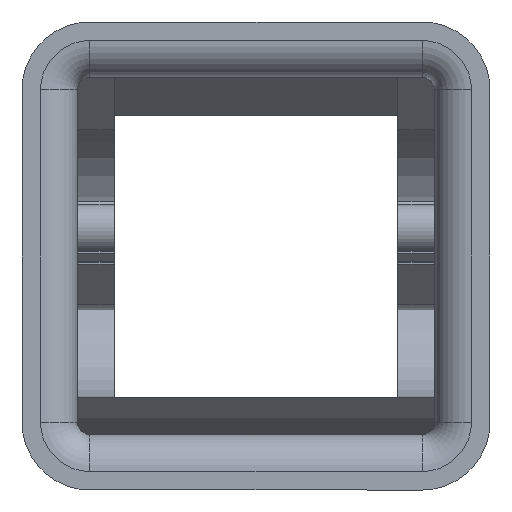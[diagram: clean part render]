
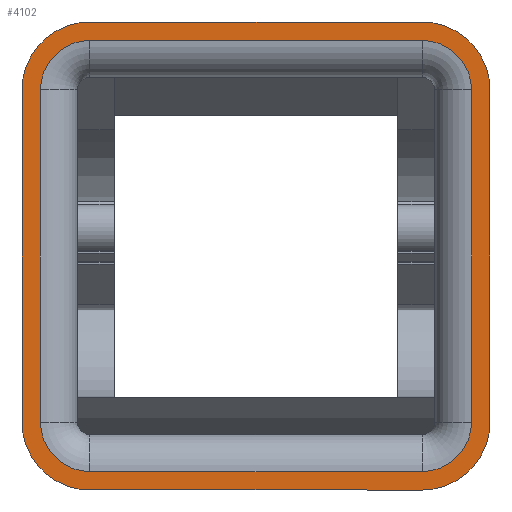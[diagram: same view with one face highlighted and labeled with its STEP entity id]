
A CAD part, front view. The second image highlights one B-rep face of the part: STEP entity #4102.
In plain terms, the highlighted planar face has unit normal (0, -1, 0).
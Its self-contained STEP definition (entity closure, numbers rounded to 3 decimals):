
#578=CARTESIAN_POINT('',(13.5,0.,38.));
#579=VERTEX_POINT('',#578);
#586=CARTESIAN_POINT('',(19.,0.,32.5));
#587=VERTEX_POINT('',#586);
#588=CARTESIAN_POINT('',(13.5,0.,32.5));
#589=DIRECTION('',(0.0,-1.0,0.0));
#590=DIRECTION('',(0.0,0.0,-1.0));
#591=AXIS2_PLACEMENT_3D('',#588,#589,#590);
#592=CIRCLE('',#591,5.5);
#593=EDGE_CURVE('',#587,#579,#592,.T.);
#618=CARTESIAN_POINT('',(13.5,0.,36.499));
#619=VERTEX_POINT('',#618);
#638=CARTESIAN_POINT('',(17.499,0.,32.5));
#639=VERTEX_POINT('',#638);
#647=CARTESIAN_POINT('',(13.5,0.,32.5));
#648=DIRECTION('',(0.0,-1.0,0.0));
#649=DIRECTION('',(0.0,0.0,-1.0));
#650=AXIS2_PLACEMENT_3D('',#647,#648,#649);
#651=CIRCLE('',#650,3.999);
#652=EDGE_CURVE('',#639,#619,#651,.T.);
#1518=CARTESIAN_POINT('',(19.,0.,5.5));
#1519=VERTEX_POINT('',#1518);
#1520=CARTESIAN_POINT('',(19.,0.,5.5));
#1521=DIRECTION('',(0.0,0.0,1.0));
#1522=VECTOR('',#1521,27.);
#1523=LINE('',#1520,#1522);
#1524=EDGE_CURVE('',#1519,#587,#1523,.T.);
#1557=CARTESIAN_POINT('',(17.499,0.,5.5));
#1558=VERTEX_POINT('',#1557);
#1566=CARTESIAN_POINT('',(17.499,0.,5.5));
#1567=DIRECTION('',(0.0,0.0,1.0));
#1568=VECTOR('',#1567,27.);
#1569=LINE('',#1566,#1568);
#1570=EDGE_CURVE('',#1558,#639,#1569,.T.);
#2214=CARTESIAN_POINT('',(13.5,0.,0.));
#2215=VERTEX_POINT('',#2214);
#2216=CARTESIAN_POINT('',(13.5,0.,5.5));
#2217=DIRECTION('',(0.0,-1.0,0.0));
#2218=DIRECTION('',(-1.0,0.0,0.0));
#2219=AXIS2_PLACEMENT_3D('',#2216,#2217,#2218);
#2220=CIRCLE('',#2219,5.5);
#2221=EDGE_CURVE('',#2215,#1519,#2220,.T.);
#2256=CARTESIAN_POINT('',(13.5,0.,1.501));
#2257=VERTEX_POINT('',#2256);
#2265=CARTESIAN_POINT('',(13.5,0.,5.5));
#2266=DIRECTION('',(0.0,-1.0,0.0));
#2267=DIRECTION('',(-1.0,0.0,0.0));
#2268=AXIS2_PLACEMENT_3D('',#2265,#2266,#2267);
#2269=CIRCLE('',#2268,3.999);
#2270=EDGE_CURVE('',#2257,#1558,#2269,.T.);
#2980=CARTESIAN_POINT('',(-13.5,0.,36.499));
#2981=VERTEX_POINT('',#2980);
#2982=CARTESIAN_POINT('',(13.5,0.,36.499));
#2983=DIRECTION('',(-1.0,0.0,0.0));
#2984=VECTOR('',#2983,27.);
#2985=LINE('',#2982,#2984);
#2986=EDGE_CURVE('',#619,#2981,#2985,.T.);
#3170=CARTESIAN_POINT('',(-13.5,0.,0.));
#3171=VERTEX_POINT('',#3170);
#3172=CARTESIAN_POINT('',(-13.5,0.,0.));
#3173=DIRECTION('',(1.0,0.0,0.0));
#3174=VECTOR('',#3173,27.);
#3175=LINE('',#3172,#3174);
#3176=EDGE_CURVE('',#3171,#2215,#3175,.T.);
#3209=CARTESIAN_POINT('',(-13.5,0.,1.501));
#3210=VERTEX_POINT('',#3209);
#3218=CARTESIAN_POINT('',(-13.5,0.,1.501));
#3219=DIRECTION('',(1.0,0.0,0.0));
#3220=VECTOR('',#3219,27.);
#3221=LINE('',#3218,#3220);
#3222=EDGE_CURVE('',#3210,#2257,#3221,.T.);
#4028=CARTESIAN_POINT('',(28.5,0.,36.5));
#4029=DIRECTION('',(0.0,-1.0,0.0));
#4030=DIRECTION('',(1.0,0.0,0.0));
#4031=AXIS2_PLACEMENT_3D('',#4028,#4029,#4030);
#4032=PLANE('',#4031);
#4033=ORIENTED_EDGE('',*,*,#3176,.T.);
#4034=ORIENTED_EDGE('',*,*,#2221,.T.);
#4035=ORIENTED_EDGE('',*,*,#1524,.T.);
#4036=ORIENTED_EDGE('',*,*,#593,.T.);
#4037=CARTESIAN_POINT('',(-13.5,0.,38.));
#4038=VERTEX_POINT('',#4037);
#4039=CARTESIAN_POINT('',(13.5,0.,38.));
#4040=DIRECTION('',(-1.0,0.0,0.0));
#4041=VECTOR('',#4040,27.);
#4042=LINE('',#4039,#4041);
#4043=EDGE_CURVE('',#579,#4038,#4042,.T.);
#4044=ORIENTED_EDGE('',*,*,#4043,.T.);
#4045=CARTESIAN_POINT('',(-19.,0.,32.5));
#4046=VERTEX_POINT('',#4045);
#4047=CARTESIAN_POINT('',(-13.5,0.,32.5));
#4048=DIRECTION('',(0.0,-1.0,0.0));
#4049=DIRECTION('',(1.0,0.0,0.0));
#4050=AXIS2_PLACEMENT_3D('',#4047,#4048,#4049);
#4051=CIRCLE('',#4050,5.5);
#4052=EDGE_CURVE('',#4038,#4046,#4051,.T.);
#4053=ORIENTED_EDGE('',*,*,#4052,.T.);
#4054=CARTESIAN_POINT('',(-19.,0.,5.5));
#4055=VERTEX_POINT('',#4054);
#4056=CARTESIAN_POINT('',(-19.,0.,32.5));
#4057=DIRECTION('',(0.0,0.0,-1.0));
#4058=VECTOR('',#4057,27.);
#4059=LINE('',#4056,#4058);
#4060=EDGE_CURVE('',#4046,#4055,#4059,.T.);
#4061=ORIENTED_EDGE('',*,*,#4060,.T.);
#4062=CARTESIAN_POINT('',(-13.5,0.,5.5));
#4063=DIRECTION('',(0.0,-1.0,0.0));
#4064=DIRECTION('',(0.0,0.0,1.0));
#4065=AXIS2_PLACEMENT_3D('',#4062,#4063,#4064);
#4066=CIRCLE('',#4065,5.5);
#4067=EDGE_CURVE('',#4055,#3171,#4066,.T.);
#4068=ORIENTED_EDGE('',*,*,#4067,.T.);
#4069=EDGE_LOOP('',(#4033,#4034,#4035,#4036,#4044,#4053,#4061,#4068));
#4070=FACE_OUTER_BOUND('',#4069,.T.);
#4071=ORIENTED_EDGE('',*,*,#3222,.F.);
#4072=CARTESIAN_POINT('',(-17.499,0.,5.5));
#4073=VERTEX_POINT('',#4072);
#4074=CARTESIAN_POINT('',(-13.5,0.,5.5));
#4075=DIRECTION('',(0.0,-1.0,0.0));
#4076=DIRECTION('',(0.0,0.0,1.0));
#4077=AXIS2_PLACEMENT_3D('',#4074,#4075,#4076);
#4078=CIRCLE('',#4077,3.999);
#4079=EDGE_CURVE('',#4073,#3210,#4078,.T.);
#4080=ORIENTED_EDGE('',*,*,#4079,.F.);
#4081=CARTESIAN_POINT('',(-17.499,0.,32.5));
#4082=VERTEX_POINT('',#4081);
#4083=CARTESIAN_POINT('',(-17.499,0.,32.5));
#4084=DIRECTION('',(0.0,0.0,-1.0));
#4085=VECTOR('',#4084,27.);
#4086=LINE('',#4083,#4085);
#4087=EDGE_CURVE('',#4082,#4073,#4086,.T.);
#4088=ORIENTED_EDGE('',*,*,#4087,.F.);
#4089=CARTESIAN_POINT('',(-13.5,0.,32.5));
#4090=DIRECTION('',(0.0,-1.0,0.0));
#4091=DIRECTION('',(1.0,0.0,0.0));
#4092=AXIS2_PLACEMENT_3D('',#4089,#4090,#4091);
#4093=CIRCLE('',#4092,3.999);
#4094=EDGE_CURVE('',#2981,#4082,#4093,.T.);
#4095=ORIENTED_EDGE('',*,*,#4094,.F.);
#4096=ORIENTED_EDGE('',*,*,#2986,.F.);
#4097=ORIENTED_EDGE('',*,*,#652,.F.);
#4098=ORIENTED_EDGE('',*,*,#1570,.F.);
#4099=ORIENTED_EDGE('',*,*,#2270,.F.);
#4100=EDGE_LOOP('',(#4071,#4080,#4088,#4095,#4096,#4097,#4098,#4099));
#4101=FACE_BOUND('',#4100,.T.);
#4102=ADVANCED_FACE('',(#4070,#4101),#4032,.T.);
